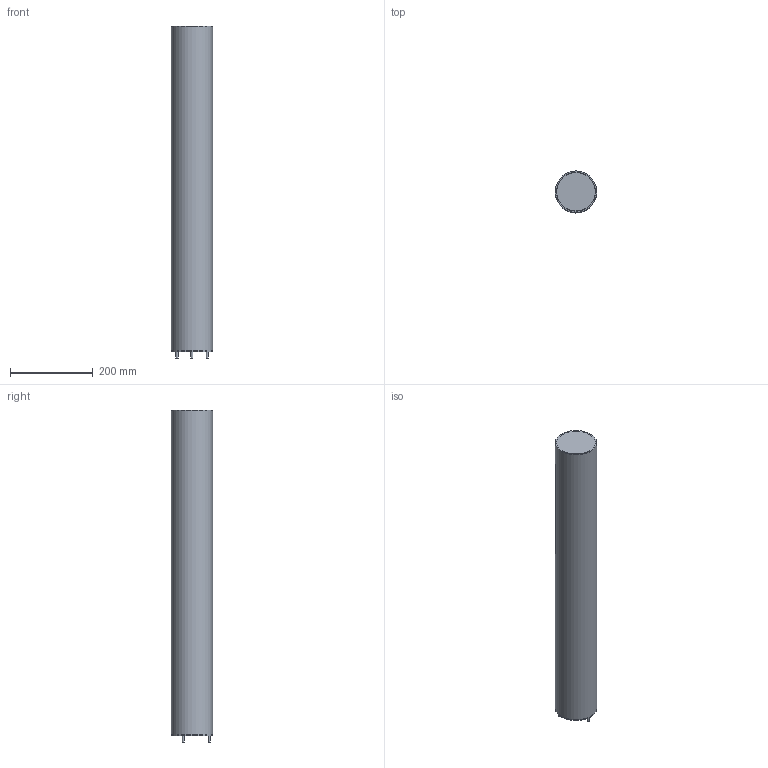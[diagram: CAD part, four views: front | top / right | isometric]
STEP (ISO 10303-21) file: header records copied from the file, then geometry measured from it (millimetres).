
FILE_DESCRIPTION(/* description */ (''),/* implementation_level */ '2;1');
FILE_NAME(/* name */ 'Light Stick Sahara 65.step',/* time_stamp */ '2022-12-22T11:30:00+01:00',/* author */ (''),/* organization */ (''),/* preprocessor_version */ 'ST-DEVELOPER v19.2',/* originating_system */ 'Autodesk Translation Framework v11.17.0.187',/* authorisation */ '');
FILE_SCHEMA (('AUTOMOTIVE_DESIGN { 1 0 10303 214 3 1 1 }'));
Length unit declared in the file: millimetre
Products named in the file (4): Light Stick Sahara 65; Fuß Light Star/Stick Modell; Rohr Light Stick Sahara 65 mit Deckel; Deckel Light Stick
Assembly tree (3 placements, depth 3):
  Light Stick Sahara 65
    Fuß Light Star/Stick Modell
    Rohr Light Stick Sahara 65 mit Deckel
      Deckel Light Stick
Bounding box: 100 x 100 x 801 mm (x, y, z)
Volume: 912885.3 mm3; surface area: 519133.2 mm2
Topology: 3 solids, 3 shells, 21 faces, 29 edges, 19 vertices
Faces by surface type: plane 11, cylinder 9, cone 1
Full cylindrical faces by diameter (mm): 5 x3, 93 x1, 94 x2, 100 x3
Entity records: 585 total; most frequent: DIRECTION 104, CARTESIAN_POINT 76, ORIENTED_EDGE 58, AXIS2_PLACEMENT_3D 47, EDGE_CURVE 29, EDGE_LOOP 28, FACE_OUTER_BOUND 21, ADVANCED_FACE 21
